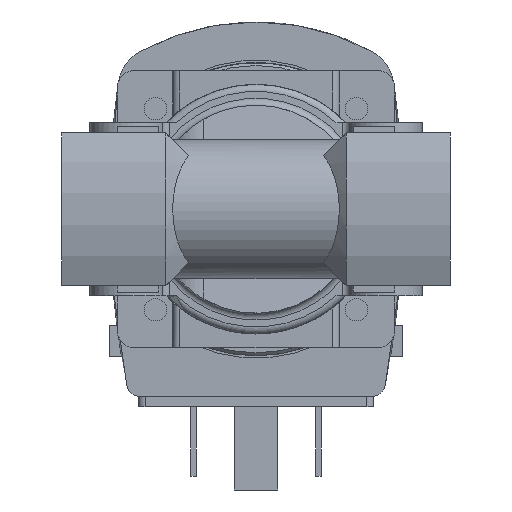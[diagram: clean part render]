
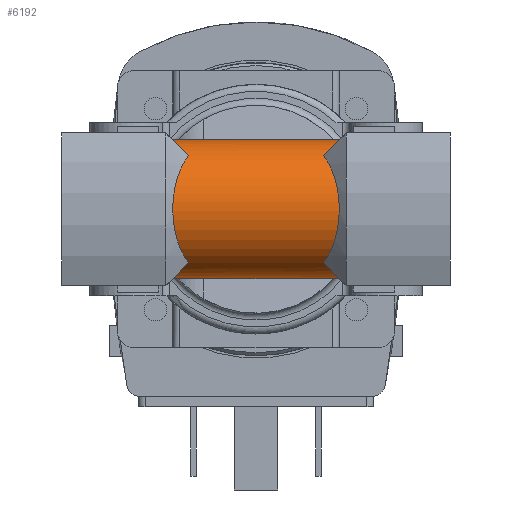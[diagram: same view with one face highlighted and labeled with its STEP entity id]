
A CAD part, front view. The second image highlights one B-rep face of the part: STEP entity #6192.
In plain terms, the highlighted cylindrical face has radius 10 mm (diameter 20 mm), a partial arc.
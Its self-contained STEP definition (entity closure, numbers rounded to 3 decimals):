
#18=ELLIPSE('',#6633,14.142,10.);
#19=ELLIPSE('',#6634,14.142,10.);
#20=ELLIPSE('',#6635,14.142,10.);
#21=ELLIPSE('',#6636,14.142,10.);
#265=B_SPLINE_CURVE_WITH_KNOTS('',3,(#9184,#9185,#9186,#9187,#9188,#9189,
#9190),.UNSPECIFIED.,.F.,.F.,(4,1,1,1,4),(0.002,0.006,
0.011,0.015,0.02),.UNSPECIFIED.);
#266=B_SPLINE_CURVE_WITH_KNOTS('',3,(#9196,#9197,#9198,#9199,#9200,#9201,
#9202),.UNSPECIFIED.,.F.,.F.,(4,1,1,1,4),(0.002,0.006,
0.011,0.015,0.02),.UNSPECIFIED.);
#356=CYLINDRICAL_SURFACE('',#6632,10.);
#1020=ORIENTED_EDGE('',*,*,#2260,.T.);
#1021=ORIENTED_EDGE('',*,*,#2261,.T.);
#1022=ORIENTED_EDGE('',*,*,#2181,.T.);
#1023=ORIENTED_EDGE('',*,*,#2262,.F.);
#1024=ORIENTED_EDGE('',*,*,#2263,.F.);
#1025=ORIENTED_EDGE('',*,*,#2264,.F.);
#1026=ORIENTED_EDGE('',*,*,#2211,.F.);
#1027=ORIENTED_EDGE('',*,*,#2265,.T.);
#2181=EDGE_CURVE('',#2844,#2843,#3256,.T.);
#2211=EDGE_CURVE('',#2873,#2874,#3271,.T.);
#2260=EDGE_CURVE('',#2915,#2916,#265,.T.);
#2261=EDGE_CURVE('',#2916,#2844,#18,.T.);
#2262=EDGE_CURVE('',#2917,#2843,#19,.F.);
#2263=EDGE_CURVE('',#2918,#2917,#266,.T.);
#2264=EDGE_CURVE('',#2874,#2918,#20,.F.);
#2265=EDGE_CURVE('',#2873,#2915,#21,.T.);
#2843=VERTEX_POINT('',#8942);
#2844=VERTEX_POINT('',#8944);
#2873=VERTEX_POINT('',#9025);
#2874=VERTEX_POINT('',#9027);
#2915=VERTEX_POINT('',#9191);
#2916=VERTEX_POINT('',#9192);
#2917=VERTEX_POINT('',#9195);
#2918=VERTEX_POINT('',#9203);
#3256=LINE('',#8943,#3650);
#3271=LINE('',#9026,#3665);
#3650=VECTOR('',#7392,1000.);
#3665=VECTOR('',#7427,1000.);
#4133=EDGE_LOOP('',(#1020,#1021,#1022,#1023,#1024,#1025,#1026,#1027));
#4547=FACE_BOUND('',#4133,.T.);
#6192=ADVANCED_FACE('',(#4547),#356,.T.);
#6632=AXIS2_PLACEMENT_3D('',#9183,#7500,#7501);
#6633=AXIS2_PLACEMENT_3D('',#9193,#7502,#7503);
#6634=AXIS2_PLACEMENT_3D('',#9194,#7504,#7505);
#6635=AXIS2_PLACEMENT_3D('',#9204,#7506,#7507);
#6636=AXIS2_PLACEMENT_3D('',#9205,#7508,#7509);
#7392=DIRECTION('',(-1.,0.,0.));
#7427=DIRECTION('',(-1.,0.,0.));
#7500=DIRECTION('',(-1.,0.,0.));
#7501=DIRECTION('',(0.,0.,1.));
#7502=DIRECTION('',(-0.707,0.,0.707));
#7503=DIRECTION('',(-0.707,0.,-0.707));
#7504=DIRECTION('',(0.707,0.,0.707));
#7505=DIRECTION('',(-0.707,0.,0.707));
#7506=DIRECTION('',(0.707,0.,-0.707));
#7507=DIRECTION('',(-0.707,0.,-0.707));
#7508=DIRECTION('',(-0.707,0.,-0.707));
#7509=DIRECTION('',(-0.707,0.,0.707));
#8942=CARTESIAN_POINT('',(-12.,0.,10.));
#8943=CARTESIAN_POINT('',(20.,0.,10.));
#8944=CARTESIAN_POINT('',(12.,0.,10.));
#9025=CARTESIAN_POINT('',(12.,0.,-10.));
#9026=CARTESIAN_POINT('',(20.,0.,-10.));
#9027=CARTESIAN_POINT('',(-12.,0.,-10.));
#9183=CARTESIAN_POINT('',(20.,0.,0.));
#9184=CARTESIAN_POINT('',(9.714,-6.364,-7.714));
#9185=CARTESIAN_POINT('',(10.405,-7.411,-6.85));
#9186=CARTESIAN_POINT('',(11.56,-9.258,-4.599));
#9187=CARTESIAN_POINT('',(12.218,-10.367,-0.016));
#9188=CARTESIAN_POINT('',(11.569,-9.273,4.572));
#9189=CARTESIAN_POINT('',(10.413,-7.422,6.84));
#9190=CARTESIAN_POINT('',(9.714,-6.364,7.714));
#9191=CARTESIAN_POINT('',(9.714,-6.364,-7.714));
#9192=CARTESIAN_POINT('',(9.714,-6.364,7.714));
#9193=CARTESIAN_POINT('',(2.,0.,0.));
#9194=CARTESIAN_POINT('',(-2.,0.,0.));
#9195=CARTESIAN_POINT('',(-9.714,-6.364,7.714));
#9196=CARTESIAN_POINT('',(-9.714,-6.364,-7.714));
#9197=CARTESIAN_POINT('',(-10.405,-7.411,-6.85));
#9198=CARTESIAN_POINT('',(-11.56,-9.258,-4.599));
#9199=CARTESIAN_POINT('',(-12.218,-10.367,-0.016));
#9200=CARTESIAN_POINT('',(-11.569,-9.273,4.572));
#9201=CARTESIAN_POINT('',(-10.413,-7.422,6.84));
#9202=CARTESIAN_POINT('',(-9.714,-6.364,7.714));
#9203=CARTESIAN_POINT('',(-9.714,-6.364,-7.714));
#9204=CARTESIAN_POINT('',(-2.,0.,0.));
#9205=CARTESIAN_POINT('',(2.,0.,0.));
